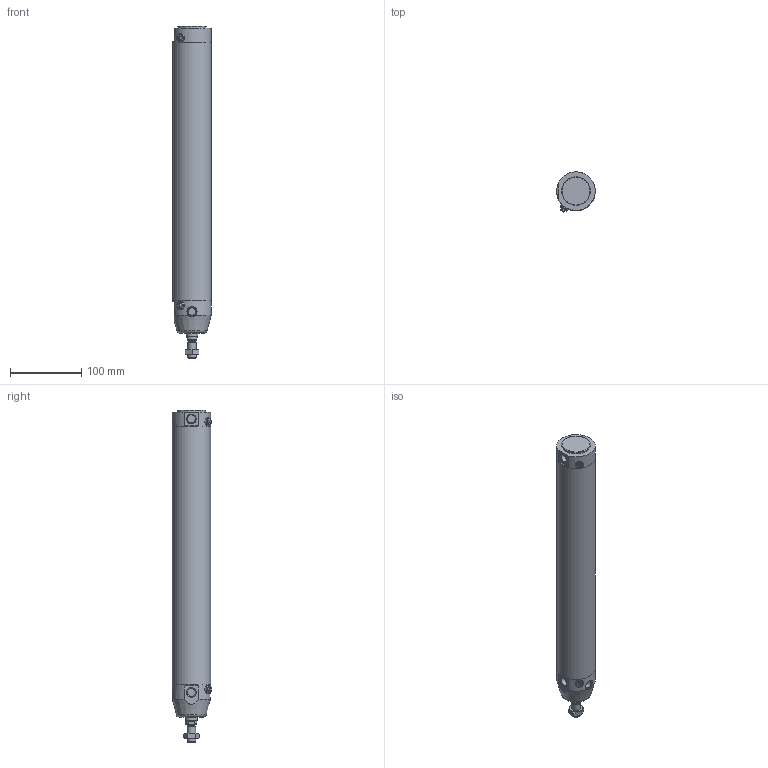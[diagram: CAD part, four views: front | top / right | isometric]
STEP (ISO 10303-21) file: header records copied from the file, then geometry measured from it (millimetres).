
FILE_DESCRIPTION(/* description */ (''),/* implementation_level */ '2;1');
FILE_NAME(/* name */ 'I:\Area Tecnica\Documenti\A-Manieri\_Inventor\12X\12X#E_###_####_#_#\12XBE_050_0320_#_#.stp',/* time_stamp */ '2015-05-08T13:58:17+02:00',/* author */ ('maniean1'),/* organization */ ('Pneumax S.p.A.'),/* preprocessor_version */ 'ST-DEVELOPER v15.2',/* originating_system */ 'Autodesk Inventor 2014',/* authorisation */ '');
FILE_SCHEMA (('AUTOMOTIVE_DESIGN { 1 0 10303 214 3 1 1 }'));
Length unit declared in the file: millimetre
Products named in the file (6): C1250_619-0320; 12X50_623; S12X50_0320; 12X_50_11; 12X50_612; 12XBE_050_0320_#_#
Bounding box: 54 x 55.88 x 465 mm (x, y, z)
Volume: 408302.1 mm3; surface area: 172537.8 mm2
Topology: 5 solids, 5 shells, 83 faces, 174 edges, 112 vertices
Faces by surface type: plane 45, cylinder 22, cone 13, torus 3
Full cylindrical faces by diameter (mm): 5 x2, 10.2 x1, 10.9 x2, 11 x2, 11.4 x2, 12 x2, 14 x1, 14.1 x2, 15.6 x1, 16 x1, 40 x1, 50 x2, 54 x3
Entity records: 2203 total; most frequent: CARTESIAN_POINT 508, DIRECTION 359, ORIENTED_EDGE 254, AXIS2_PLACEMENT_3D 161, EDGE_LOOP 136, EDGE_CURVE 127, VERTEX_POINT 101, ADVANCED_FACE 83
